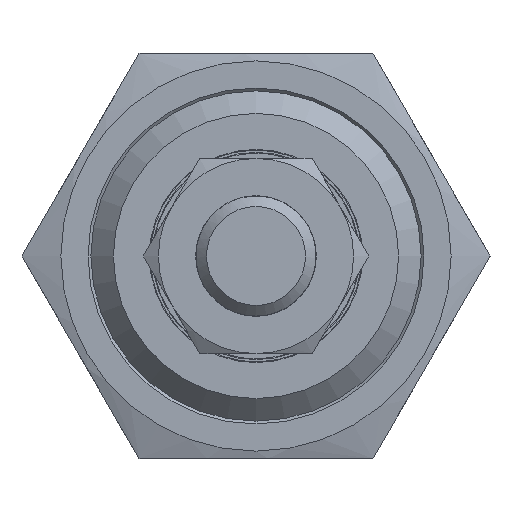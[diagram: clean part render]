
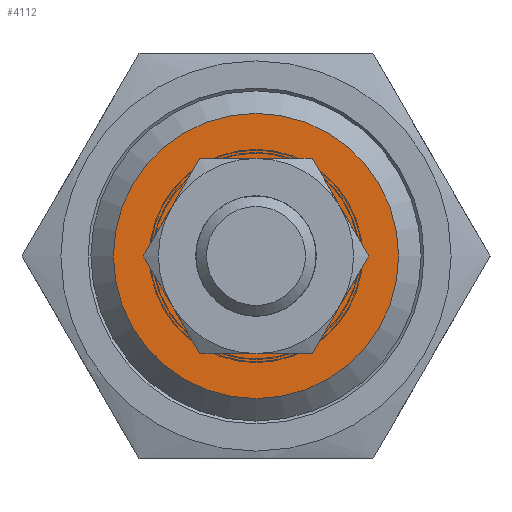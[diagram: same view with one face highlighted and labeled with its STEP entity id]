
A CAD part, front view. The second image highlights one B-rep face of the part: STEP entity #4112.
In plain terms, the highlighted planar face has unit normal (0, -1, 0).
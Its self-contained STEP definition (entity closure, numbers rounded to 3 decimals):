
#265=PLANE('',#4476);
#948=ORIENTED_EDGE('',*,*,#1384,.T.);
#949=ORIENTED_EDGE('',*,*,#1351,.F.);
#1351=EDGE_CURVE('',#1638,#1638,#1842,.T.);
#1384=EDGE_CURVE('',#1671,#1671,#1872,.T.);
#1638=VERTEX_POINT('',#6086);
#1671=VERTEX_POINT('',#6191);
#1842=CIRCLE('',#4412,6.35);
#1872=CIRCLE('',#4477,9.5);
#2139=EDGE_LOOP('',(#948));
#2140=EDGE_LOOP('',(#949));
#2455=FACE_BOUND('',#2139,.T.);
#2456=FACE_BOUND('',#2140,.T.);
#4112=ADVANCED_FACE('',(#2455,#2456),#265,.T.);
#4412=AXIS2_PLACEMENT_3D('',#6085,#5083,#5084);
#4476=AXIS2_PLACEMENT_3D('',#6189,#5213,#5214);
#4477=AXIS2_PLACEMENT_3D('',#6190,#5215,#5216);
#5083=DIRECTION('',(0.,-1.,0.));
#5084=DIRECTION('',(0.,0.,-1.));
#5213=DIRECTION('',(0.,-1.,0.));
#5214=DIRECTION('',(0.,0.,-1.));
#5215=DIRECTION('',(0.,-1.,0.));
#5216=DIRECTION('',(0.,0.,-1.));
#6085=CARTESIAN_POINT('',(0.,-76.75,0.));
#6086=CARTESIAN_POINT('',(0.,-76.75,-6.35));
#6189=CARTESIAN_POINT('',(0.,-76.75,5.5));
#6190=CARTESIAN_POINT('',(0.,-76.75,0.));
#6191=CARTESIAN_POINT('',(0.,-76.75,-9.5));
